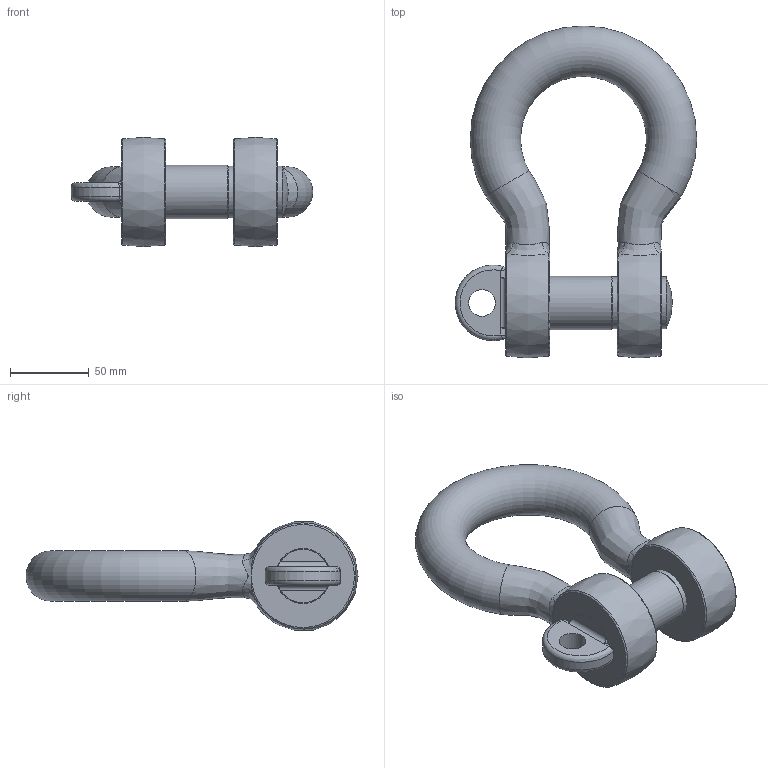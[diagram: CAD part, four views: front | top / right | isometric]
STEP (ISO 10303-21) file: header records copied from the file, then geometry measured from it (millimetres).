
FILE_DESCRIPTION(/* description */ (''),/* implementation_level */ '2;1');
FILE_NAME(/* name */ 'C:\Users\D\Documents\Inventor\HP\吊具\シャックル\BC_2\bc_28.stp',/* time_stamp */ '2024-11-20T10:49:01+09:00',/* author */ ('D'),/* organization */ (''),/* preprocessor_version */ 'ST-DEVELOPER v18',/* originating_system */ 'Autodesk Inventor 2020',/* authorisation */ '');
FILE_SCHEMA (('AUTOMOTIVE_DESIGN { 1 0 10303 214 3 1 1 }'));
Length unit declared in the file: millimetre
Products named in the file (3): bc_28; ba_6; bc-sc_pin_6
Assembly tree (2 placements, depth 2):
  bc_28
    ba_6
    bc-sc_pin_6
Bounding box: 153.5 x 211 x 69.35 mm (x, y, z)
Volume: 519825.6 mm3; surface area: 78468.7 mm2
Topology: 4 solids, 4 shells, 53 faces, 137 edges, 84 vertices
Faces by surface type: bspline 16, cylinder 14, plane 14, torus 7, sphere 1, cone 1
Full cylindrical faces by diameter (mm): 17 x1, 29.211 x1, 33 x1, 34 x1, 35 x1
Entity records: 3314 total; most frequent: CARTESIAN_POINT 2030, ORIENTED_EDGE 258, DIRECTION 232, EDGE_CURVE 129, AXIS2_PLACEMENT_3D 105, VERTEX_POINT 84, CIRCLE 63, EDGE_LOOP 59
